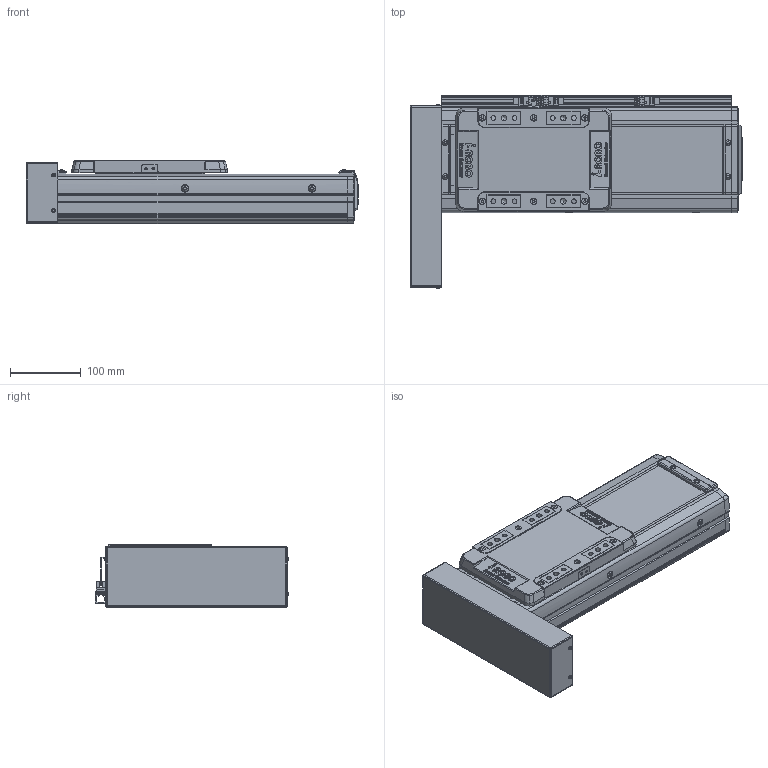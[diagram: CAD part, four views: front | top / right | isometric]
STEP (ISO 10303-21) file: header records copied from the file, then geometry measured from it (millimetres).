
FILE_DESCRIPTION(('STEP AP214'),'1');
FILE_NAME('Z:/Web/3D/SAN150/2013.04 (STP.)/SAN150ㅁㅁ-150PR+3SL.stp','2013-05-08T02:43:39',(' '),(' '),'Spatial InterOp 3D',' ',' ');
FILE_SCHEMA(('automotive_design'));
Length unit declared in the file: millimetre
Products named in the file (58): SLBL-SAN150; SLCV-SAN150; FHCS M4.0 x 8.0; BHCS M4.0 x 10.0; SFX-SAN150; RRCV-SAN150; FRBL-SAN150; Spacer; RN15; FRCV-SAN150; Screw 20; BASE-SAN150-000L ; SUS COVER; 스크루 : Round - M5.0 x 6.0; BHCS M3.0 x 6.0; P; M3.0 x 6.0; SRL-16x17-360L; SGD-SAN150; EE-SX674; SBK-SX674-352; 스크루 : Round - M3.0 x 6.0
Bounding box: 470 x 273.36 x 90 mm (x, y, z)
Volume: 3981760.8 mm3; surface area: 703356.7 mm2
Topology: 58 solids, 58 shells, 2532 faces, 6498 edges, 4183 vertices
Faces by surface type: plane 1380, cylinder 797, cone 242, sphere 80, bspline 21, torus 12
Entity records: 99722 total; most frequent: CARTESIAN_POINT 15437, DIRECTION 13740, ORIENTED_EDGE 12796, EDGE_CURVE 6398, AXIS2_PLACEMENT_3D 4845, VERTEX_POINT 4183, LINE 4050, VECTOR 4050
